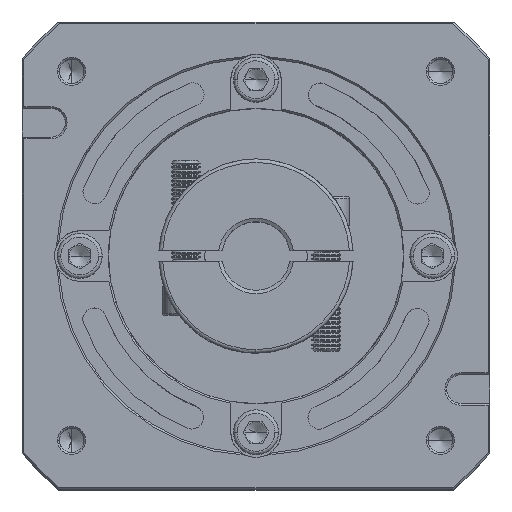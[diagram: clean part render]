
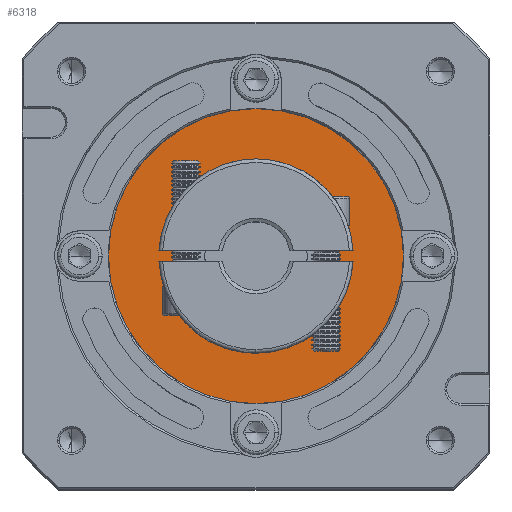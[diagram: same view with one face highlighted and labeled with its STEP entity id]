
A CAD part, top view. The second image highlights one B-rep face of the part: STEP entity #6318.
In plain terms, the highlighted planar face has unit normal (0, 0, 1).
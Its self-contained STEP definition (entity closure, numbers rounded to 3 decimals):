
#3237 = EDGE_CURVE ( 'NONE', #112153, #37329, #78679, .T. ) ;
#6318 = ADVANCED_FACE ( 'NONE', ( #96278, #14013 ), #111487, .T. ) ;
#7016 = CARTESIAN_POINT ( 'NONE',  ( 53.908, 53.71, -30.444 ) ) ;
#7348 = CARTESIAN_POINT ( 'NONE',  ( 94.908, 53.71, -30.444 ) ) ;
#8021 = DIRECTION ( 'NONE',  ( 0., 0., -1. ) ) ;
#10663 = EDGE_LOOP ( 'NONE', ( #132178, #69695 ) ) ;
#11193 = AXIS2_PLACEMENT_3D ( 'NONE', #46131, #56275, #109760 ) ;
#12569 = CIRCLE ( 'NONE', #116832, 41. ) ;
#14013 = FACE_BOUND ( 'NONE', #10663, .T. ) ;
#16718 = VERTEX_POINT ( 'NONE', #124739 ) ;
#17878 = CARTESIAN_POINT ( 'NONE',  ( 33.908, 53.71, -30.444 ) ) ;
#19475 = AXIS2_PLACEMENT_3D ( 'NONE', #107715, #34027, #86435 ) ;
#30899 = EDGE_CURVE ( 'NONE', #51796, #16718, #111179, .T. ) ;
#34027 = DIRECTION ( 'NONE',  ( 0., 0., -1. ) ) ;
#37312 = AXIS2_PLACEMENT_3D ( 'NONE', #7016, #59910, #38713 ) ;
#37329 = VERTEX_POINT ( 'NONE', #17878 ) ;
#38713 = DIRECTION ( 'NONE',  ( 1., 0., 0. ) ) ;
#46131 = CARTESIAN_POINT ( 'NONE',  ( 53.908, 53.71, -30.444 ) ) ;
#47142 = EDGE_CURVE ( 'NONE', #37329, #112153, #73627, .T. ) ;
#51796 = VERTEX_POINT ( 'NONE', #7348 ) ;
#53093 = DIRECTION ( 'NONE',  ( 1., 0., 0. ) ) ;
#56275 = DIRECTION ( 'NONE',  ( 0., 0., 1. ) ) ;
#59537 = CARTESIAN_POINT ( 'NONE',  ( 53.908, 53.71, -30.444 ) ) ;
#59910 = DIRECTION ( 'NONE',  ( 0., 0., 1. ) ) ;
#69695 = ORIENTED_EDGE ( 'NONE', *, *, #47142, .T. ) ;
#73627 = CIRCLE ( 'NONE', #108905, 20. ) ;
#74630 = EDGE_LOOP ( 'NONE', ( #114606, #132759 ) ) ;
#78679 = CIRCLE ( 'NONE', #19475, 20. ) ;
#86435 = DIRECTION ( 'NONE',  ( 1., 0., 0. ) ) ;
#88202 = CARTESIAN_POINT ( 'NONE',  ( 73.908, 53.71, -30.444 ) ) ;
#94990 = CARTESIAN_POINT ( 'NONE',  ( 53.908, 53.71, -30.444 ) ) ;
#96278 = FACE_OUTER_BOUND ( 'NONE', #74630, .T. ) ;
#107715 = CARTESIAN_POINT ( 'NONE',  ( 53.908, 53.71, -30.444 ) ) ;
#108905 = AXIS2_PLACEMENT_3D ( 'NONE', #59537, #8021, #133313 ) ;
#109760 = DIRECTION ( 'NONE',  ( 1., 0., 0. ) ) ;
#111179 = CIRCLE ( 'NONE', #11193, 41. ) ;
#111487 = PLANE ( 'NONE',  #37312 ) ;
#112153 = VERTEX_POINT ( 'NONE', #88202 ) ;
#114606 = ORIENTED_EDGE ( 'NONE', *, *, #30899, .T. ) ;
#116184 = DIRECTION ( 'NONE',  ( 0., 0., 1. ) ) ;
#116832 = AXIS2_PLACEMENT_3D ( 'NONE', #94990, #116184, #53093 ) ;
#124739 = CARTESIAN_POINT ( 'NONE',  ( 12.908, 53.71, -30.444 ) ) ;
#124789 = EDGE_CURVE ( 'NONE', #16718, #51796, #12569, .T. ) ;
#132178 = ORIENTED_EDGE ( 'NONE', *, *, #3237, .T. ) ;
#132759 = ORIENTED_EDGE ( 'NONE', *, *, #124789, .T. ) ;
#133313 = DIRECTION ( 'NONE',  ( 1., 0., 0. ) ) ;
